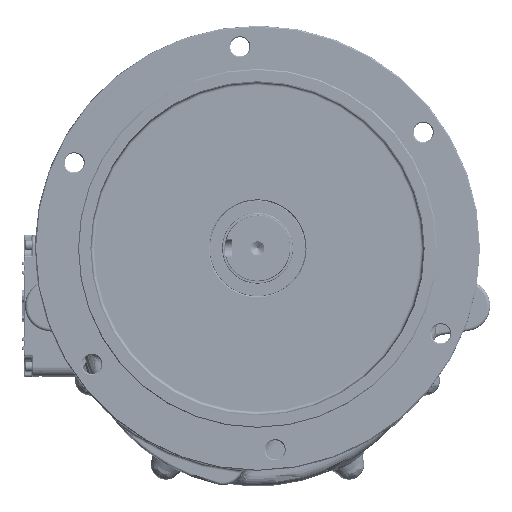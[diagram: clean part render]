
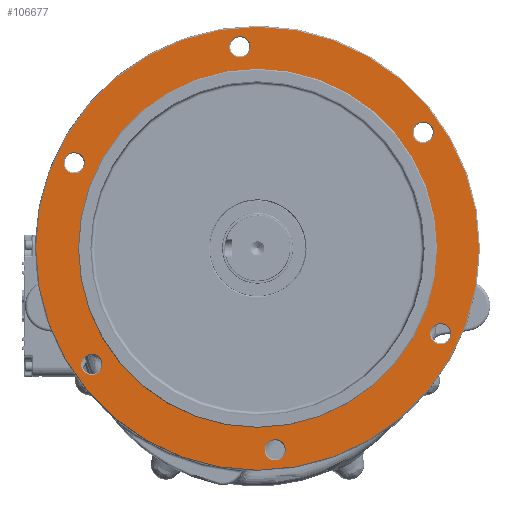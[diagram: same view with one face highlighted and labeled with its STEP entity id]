
A CAD part, front view. The second image highlights one B-rep face of the part: STEP entity #106677.
In plain terms, the highlighted planar face has unit normal (0, -1, 0).
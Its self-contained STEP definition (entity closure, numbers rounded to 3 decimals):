
#2418=FACE_BOUND('',#12711,.T.);
#2419=FACE_BOUND('',#12712,.T.);
#2420=FACE_BOUND('',#12713,.T.);
#2421=FACE_BOUND('',#12714,.T.);
#2422=FACE_BOUND('',#12715,.T.);
#2423=FACE_BOUND('',#12716,.T.);
#2424=FACE_BOUND('',#12717,.T.);
#3859=PLANE('',#113726);
#6282=FACE_OUTER_BOUND('',#12710,.T.);
#12710=EDGE_LOOP('',(#70680));
#12711=EDGE_LOOP('',(#70681));
#12712=EDGE_LOOP('',(#70682));
#12713=EDGE_LOOP('',(#70683));
#12714=EDGE_LOOP('',(#70684));
#12715=EDGE_LOOP('',(#70685));
#12716=EDGE_LOOP('',(#70686));
#12717=EDGE_LOOP('',(#70687));
#19460=CIRCLE('',#113547,219.);
#19463=CIRCLE('',#113552,177.5);
#19538=CIRCLE('',#113692,10.5);
#19549=CIRCLE('',#113707,10.5);
#19552=CIRCLE('',#113712,10.5);
#19555=CIRCLE('',#113717,10.5);
#19558=CIRCLE('',#113722,10.5);
#19561=CIRCLE('',#113727,10.5);
#42139=VERTEX_POINT('',#166223);
#42142=VERTEX_POINT('',#166232);
#42280=VERTEX_POINT('',#168082);
#42288=VERTEX_POINT('',#168107);
#42291=VERTEX_POINT('',#168117);
#42294=VERTEX_POINT('',#168127);
#42297=VERTEX_POINT('',#168137);
#42300=VERTEX_POINT('',#168147);
#52550=EDGE_CURVE('',#42139,#42139,#19460,.T.);
#52554=EDGE_CURVE('',#42142,#42142,#19463,.T.);
#52797=EDGE_CURVE('',#42280,#42280,#19538,.T.);
#52810=EDGE_CURVE('',#42288,#42288,#19549,.T.);
#52815=EDGE_CURVE('',#42291,#42291,#19552,.T.);
#52820=EDGE_CURVE('',#42294,#42294,#19555,.T.);
#52825=EDGE_CURVE('',#42297,#42297,#19558,.T.);
#52830=EDGE_CURVE('',#42300,#42300,#19561,.T.);
#70680=ORIENTED_EDGE('',*,*,#52550,.F.);
#70681=ORIENTED_EDGE('',*,*,#52825,.F.);
#70682=ORIENTED_EDGE('',*,*,#52815,.F.);
#70683=ORIENTED_EDGE('',*,*,#52797,.F.);
#70684=ORIENTED_EDGE('',*,*,#52554,.F.);
#70685=ORIENTED_EDGE('',*,*,#52810,.F.);
#70686=ORIENTED_EDGE('',*,*,#52820,.F.);
#70687=ORIENTED_EDGE('',*,*,#52830,.F.);
#106677=ADVANCED_FACE('',(#6282,#2418,#2419,#2420,#2421,#2422,#2423,#2424),
#3859,.T.);
#113547=AXIS2_PLACEMENT_3D('',#166225,#126136,#126137);
#113552=AXIS2_PLACEMENT_3D('',#166234,#126147,#126148);
#113692=AXIS2_PLACEMENT_3D('',#168083,#126518,#126519);
#113707=AXIS2_PLACEMENT_3D('',#168108,#126550,#126551);
#113712=AXIS2_PLACEMENT_3D('',#168118,#126562,#126563);
#113717=AXIS2_PLACEMENT_3D('',#168128,#126574,#126575);
#113722=AXIS2_PLACEMENT_3D('',#168138,#126586,#126587);
#113726=AXIS2_PLACEMENT_3D('',#168146,#126596,#126597);
#113727=AXIS2_PLACEMENT_3D('',#168148,#126598,#126599);
#126136=DIRECTION('center_axis',(0.,1.,0.));
#126137=DIRECTION('ref_axis',(-1.,0.,0.));
#126147=DIRECTION('center_axis',(0.,-1.,0.));
#126148=DIRECTION('ref_axis',(-1.,0.,0.));
#126518=DIRECTION('center_axis',(0.,-1.,0.));
#126519=DIRECTION('ref_axis',(-1.,0.,0.));
#126550=DIRECTION('center_axis',(0.,-1.,0.));
#126551=DIRECTION('ref_axis',(-0.5,0.,0.866));
#126562=DIRECTION('center_axis',(0.,-1.,0.));
#126563=DIRECTION('ref_axis',(0.5,0.,0.866));
#126574=DIRECTION('center_axis',(0.,-1.,0.));
#126575=DIRECTION('ref_axis',(1.,0.,0.));
#126586=DIRECTION('center_axis',(0.,-1.,0.));
#126587=DIRECTION('ref_axis',(0.5,0.,-0.866));
#126596=DIRECTION('center_axis',(0.,-1.,0.));
#126597=DIRECTION('ref_axis',(0.,0.,-1.));
#126598=DIRECTION('center_axis',(0.,-1.,0.));
#126599=DIRECTION('ref_axis',(-0.5,0.,-0.866));
#166223=CARTESIAN_POINT('',(219.228,-228.728,55.25));
#166225=CARTESIAN_POINT('Origin',(0.228,-228.728,55.25));
#166232=CARTESIAN_POINT('',(177.728,-228.728,55.25));
#166234=CARTESIAN_POINT('Origin',(0.228,-228.728,55.25));
#168082=CARTESIAN_POINT('',(-6.703,-228.728,254.489));
#168083=CARTESIAN_POINT('Origin',(-17.203,-228.728,254.489));
#168107=CARTESIAN_POINT('',(169.309,-228.728,160.872));
#168108=CARTESIAN_POINT('Origin',(164.059,-228.728,169.965));
#168117=CARTESIAN_POINT('',(176.24,-228.728,-38.367));
#168118=CARTESIAN_POINT('Origin',(181.49,-228.728,-29.274));
#168127=CARTESIAN_POINT('',(7.16,-228.728,-143.989));
#168128=CARTESIAN_POINT('Origin',(17.66,-228.728,-143.989));
#168137=CARTESIAN_POINT('',(-168.852,-228.728,-50.372));
#168138=CARTESIAN_POINT('Origin',(-163.602,-228.728,-59.465));
#168146=CARTESIAN_POINT('Origin',(0.228,-228.728,55.25));
#168147=CARTESIAN_POINT('',(-175.783,-228.728,148.867));
#168148=CARTESIAN_POINT('Origin',(-181.033,-228.728,139.774));
